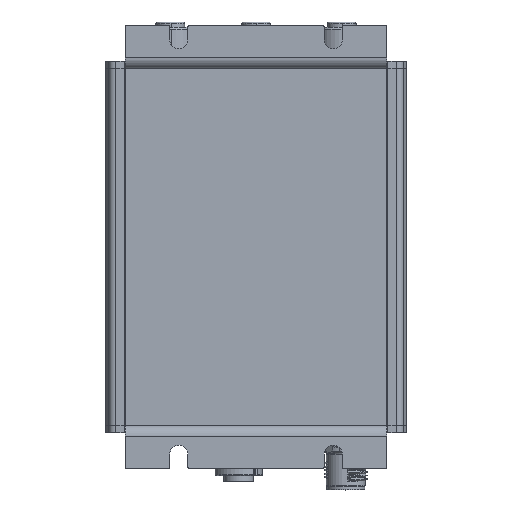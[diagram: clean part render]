
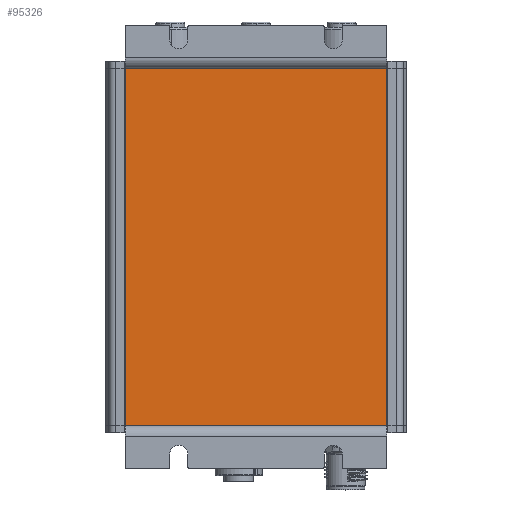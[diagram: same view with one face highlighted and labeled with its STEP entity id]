
A CAD part, front view. The second image highlights one B-rep face of the part: STEP entity #95326.
In plain terms, the highlighted planar face has unit normal (0, -1, 0).
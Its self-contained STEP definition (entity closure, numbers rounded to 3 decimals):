
#685 = DIRECTION ( 'NONE',  ( 0., -1., 0. ) ) ;
#1162 = VERTEX_POINT ( 'NONE', #33843 ) ;
#1610 = CARTESIAN_POINT ( 'NONE',  ( -18.941, -10.735, 0. ) ) ;
#9300 = EDGE_CURVE ( 'NONE', #106259, #1162, #25917, .T. ) ;
#14550 = LINE ( 'NONE', #104848, #34323 ) ;
#15918 = ORIENTED_EDGE ( 'NONE', *, *, #16927, .F. ) ;
#16927 = EDGE_CURVE ( 'NONE', #40889, #95812, #14550, .T. ) ;
#19261 = FACE_OUTER_BOUND ( 'NONE', #99880, .T. ) ;
#19691 = CARTESIAN_POINT ( 'NONE',  ( 53.959, -10.735, 100. ) ) ;
#22363 = DIRECTION ( 'NONE',  ( 1., 0., 0. ) ) ;
#24548 = CARTESIAN_POINT ( 'NONE',  ( -18.941, -10.735, 0. ) ) ;
#25893 = PLANE ( 'NONE',  #90072 ) ;
#25917 = LINE ( 'NONE', #62375, #99926 ) ;
#33843 = CARTESIAN_POINT ( 'NONE',  ( 53.959, -10.735, 0. ) ) ;
#34323 = VECTOR ( 'NONE', #22363, 1000. ) ;
#34725 = DIRECTION ( 'NONE',  ( 0., 0., -1. ) ) ;
#35085 = CARTESIAN_POINT ( 'NONE',  ( 53.959, -10.735, 0. ) ) ;
#40889 = VERTEX_POINT ( 'NONE', #70034 ) ;
#53599 = LINE ( 'NONE', #35085, #105707 ) ;
#56022 = EDGE_CURVE ( 'NONE', #1162, #95812, #53599, .T. ) ;
#62375 = CARTESIAN_POINT ( 'NONE',  ( -18.941, -10.735, 0. ) ) ;
#62771 = LINE ( 'NONE', #24548, #102728 ) ;
#64206 = ORIENTED_EDGE ( 'NONE', *, *, #71622, .T. ) ;
#68468 = ORIENTED_EDGE ( 'NONE', *, *, #56022, .T. ) ;
#70034 = CARTESIAN_POINT ( 'NONE',  ( -18.941, -10.735, 100. ) ) ;
#71622 = EDGE_CURVE ( 'NONE', #40889, #106259, #62771, .T. ) ;
#73651 = DIRECTION ( 'NONE',  ( 0., 0., -1. ) ) ;
#79154 = ORIENTED_EDGE ( 'NONE', *, *, #9300, .T. ) ;
#80485 = DIRECTION ( 'NONE',  ( 0., 0., 1. ) ) ;
#80871 = CARTESIAN_POINT ( 'NONE',  ( -18.941, -10.735, 0. ) ) ;
#90072 = AXIS2_PLACEMENT_3D ( 'NONE', #80871, #685, #73651 ) ;
#95326 = ADVANCED_FACE ( 'NONE', ( #19261 ), #25893, .T. ) ;
#95812 = VERTEX_POINT ( 'NONE', #19691 ) ;
#99880 = EDGE_LOOP ( 'NONE', ( #79154, #68468, #15918, #64206 ) ) ;
#99926 = VECTOR ( 'NONE', #107232, 1000. ) ;
#102728 = VECTOR ( 'NONE', #34725, 1000. ) ;
#104848 = CARTESIAN_POINT ( 'NONE',  ( 17.509, -10.735, 100. ) ) ;
#105707 = VECTOR ( 'NONE', #80485, 1000. ) ;
#106259 = VERTEX_POINT ( 'NONE', #1610 ) ;
#107232 = DIRECTION ( 'NONE',  ( 1., 0., 0. ) ) ;
